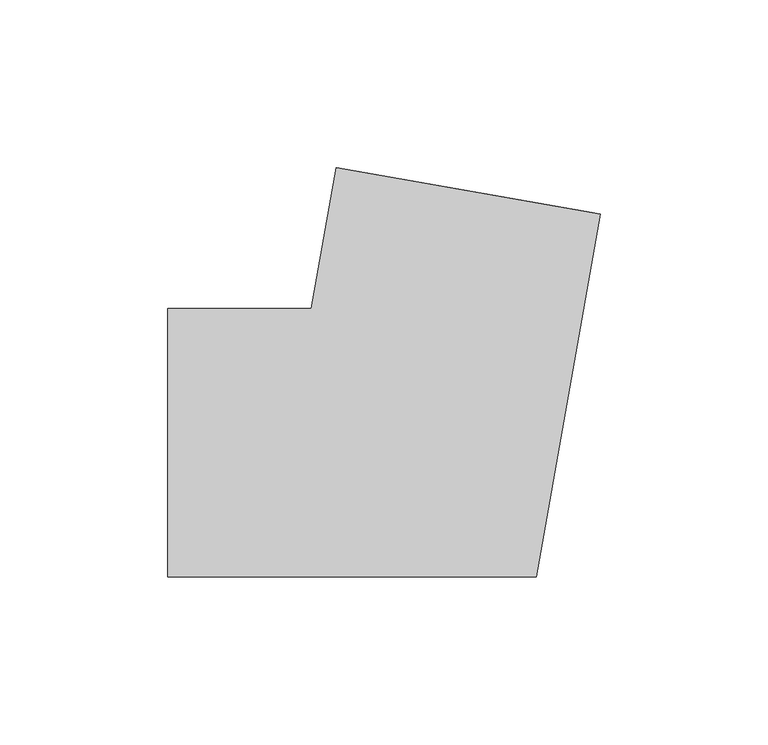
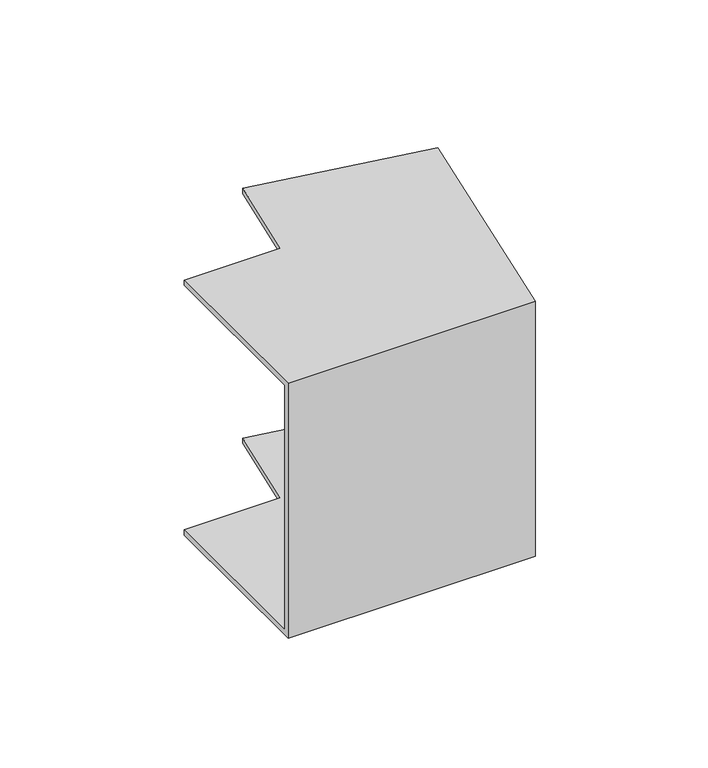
"""IFC4 building model written with IfcOpenShell, lengths in millimetres: cable carrier fitting geometry, КНС_УголВнутренний_ILC_DKC : Угол внутренний_DKC."""

from ifc_helpers import new_model, si_unit, origin, place, context, project, spatial, faceted_brep, source, transform, mapped, element, save


def cable_carrier_fitting_f998bf8a(model_context):
    return source(origin(), model_context, "Body", "Brep", [
        faceted_brep([(-76.3234687, -40.0, 60.0), (-76.3234687, 40.0, 60.0), (-76.3234687, 40.0, 57.5), (-76.3234687, -37.5, 57.5), (-76.3234687, -37.5, -57.5), (-76.3234687, 40.0, -57.5), (-76.3234687, 40.0, -60.0), (-76.3234687, -40.0, -60.0), (52.6457414, 68.2180166, 60.0), (52.6457414, 68.2180166, -60.0), (-26.1388789, 82.1098708, -60.0), (-26.1388789, 82.1098708, -57.5), (50.183722, 68.652137, -57.5), (50.183722, 68.652137, 57.5), (-26.1388789, 82.1098708, 57.5), (-26.1388789, 82.1098708, 60.0), (33.5639852, -40.0, 60.0), (-33.5639852, 40.0, 60.0), (-33.5639852, 40.0, 57.5), (31.4662362, -37.5, 57.5), (31.4662362, -37.5, -57.5), (-33.5639852, 40.0, -57.5), (-33.5639852, 40.0, -60.0), (33.5639852, -40.0, -60.0)], [[[0, 1, 2, 3, 4, 5, 6, 7]], [[8, 9, 10, 11, 12, 13, 14, 15]], [[1, 0, 16, 8, 15, 17]], [[2, 1, 17, 18]], [[3, 2, 18, 14, 13, 19]], [[4, 3, 19, 20]], [[5, 4, 20, 12, 11, 21]], [[6, 5, 21, 22]], [[7, 6, 22, 10, 9, 23]], [[0, 7, 23, 16]], [[18, 17, 15, 14]], [[20, 19, 13, 12]], [[22, 21, 11, 10]], [[16, 23, 9, 8]]]),
    ])


if __name__ == "__main__":
    model = new_model("IFC4")
    model_context = context("Model", 3, world=origin())
    ifc_project = project(units=[si_unit("LENGTHUNIT", "METRE", prefix="MILLI")], contexts=[model_context])
    site = spatial("IfcSite", under=ifc_project)
    building = spatial("IfcBuilding", under=site)
    placement = place(None, origin())
    cable_carrier_fitting_shape = cable_carrier_fitting_f998bf8a(model_context)
    element("IfcCableCarrierFitting", 1, ObjectType="КНС_УголВнутренний_ILC_DKC : Угол внутренний_DKC", at=placement, inside=building, context=model_context, shape_type="MappedRepresentation", body=[
        mapped(cable_carrier_fitting_shape, transform((0.0, 0.0, 0.0), x_axis=(1.0, 0.0, 0.0), y_axis=(0.0, 1.0, 0.0), z_axis=(0.0, 0.0, 1.0))),
    ])
    save(model, "model.ifc")
